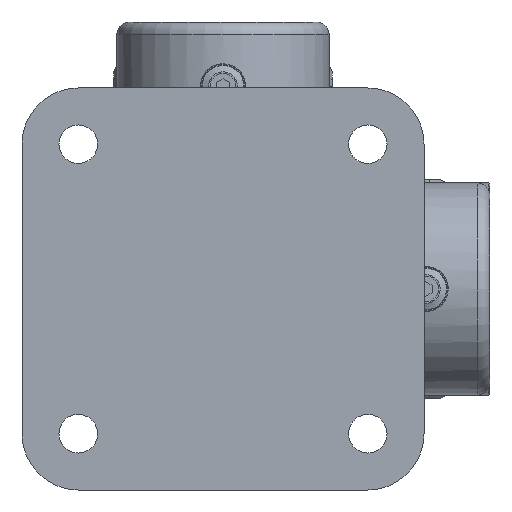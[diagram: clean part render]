
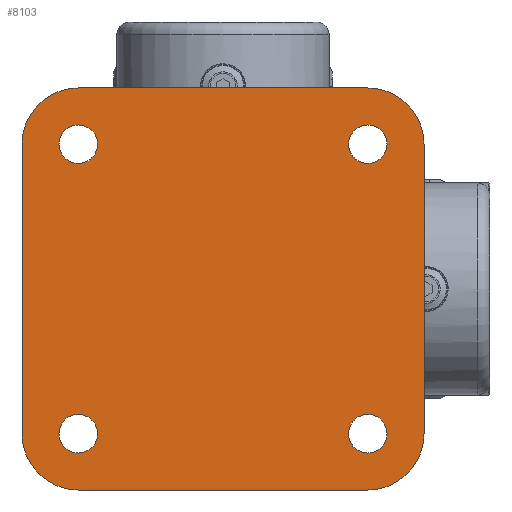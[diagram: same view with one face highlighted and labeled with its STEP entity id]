
A CAD part, front view. The second image highlights one B-rep face of the part: STEP entity #8103.
In plain terms, the highlighted planar face has unit normal (0, -1, 0).
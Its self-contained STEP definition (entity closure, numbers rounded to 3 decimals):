
#652=LINE('',#13463,#1341);
#653=LINE('',#13465,#1342);
#654=LINE('',#13467,#1343);
#655=LINE('',#13469,#1344);
#1341=VECTOR('',#10039,1000.);
#1342=VECTOR('',#10042,1000.);
#1343=VECTOR('',#10045,1000.);
#1344=VECTOR('',#10048,1000.);
#2015=FACE_BOUND('',#2615,.T.);
#2016=FACE_BOUND('',#2616,.T.);
#2017=FACE_BOUND('',#2617,.T.);
#2018=FACE_BOUND('',#2618,.T.);
#2129=FACE_OUTER_BOUND('',#2614,.T.);
#2614=EDGE_LOOP('',(#5743,#5744,#5745,#5746,#5747,#5748,#5749,#5750));
#2615=EDGE_LOOP('',(#5751));
#2616=EDGE_LOOP('',(#5752));
#2617=EDGE_LOOP('',(#5753));
#2618=EDGE_LOOP('',(#5754));
#3132=CIRCLE('',#8981,6.);
#3134=CIRCLE('',#8984,6.);
#3136=CIRCLE('',#8987,6.);
#3138=CIRCLE('',#8990,6.);
#3148=CIRCLE('',#9006,17.5);
#3150=CIRCLE('',#9009,17.5);
#3152=CIRCLE('',#9012,17.5);
#3154=CIRCLE('',#9015,17.5);
#3432=VERTEX_POINT('',#12546);
#3434=VERTEX_POINT('',#12552);
#3436=VERTEX_POINT('',#12558);
#3438=VERTEX_POINT('',#12564);
#3458=VERTEX_POINT('',#12613);
#3459=VERTEX_POINT('',#12614);
#3460=VERTEX_POINT('',#12620);
#3461=VERTEX_POINT('',#12621);
#3462=VERTEX_POINT('',#12627);
#3463=VERTEX_POINT('',#12628);
#3464=VERTEX_POINT('',#12634);
#3465=VERTEX_POINT('',#12635);
#4254=EDGE_CURVE('',#3432,#3432,#3132,.T.);
#4257=EDGE_CURVE('',#3434,#3434,#3134,.T.);
#4260=EDGE_CURVE('',#3436,#3436,#3136,.T.);
#4263=EDGE_CURVE('',#3438,#3438,#3138,.T.);
#4286=EDGE_CURVE('',#3458,#3459,#3148,.T.);
#4290=EDGE_CURVE('',#3460,#3461,#3150,.T.);
#4294=EDGE_CURVE('',#3462,#3463,#3152,.T.);
#4298=EDGE_CURVE('',#3464,#3465,#3154,.T.);
#4443=EDGE_CURVE('',#3465,#3458,#652,.T.);
#4444=EDGE_CURVE('',#3463,#3464,#653,.T.);
#4445=EDGE_CURVE('',#3461,#3462,#654,.T.);
#4446=EDGE_CURVE('',#3459,#3460,#655,.T.);
#5743=ORIENTED_EDGE('',*,*,#4290,.F.);
#5744=ORIENTED_EDGE('',*,*,#4446,.F.);
#5745=ORIENTED_EDGE('',*,*,#4286,.F.);
#5746=ORIENTED_EDGE('',*,*,#4443,.F.);
#5747=ORIENTED_EDGE('',*,*,#4298,.F.);
#5748=ORIENTED_EDGE('',*,*,#4444,.F.);
#5749=ORIENTED_EDGE('',*,*,#4294,.F.);
#5750=ORIENTED_EDGE('',*,*,#4445,.F.);
#5751=ORIENTED_EDGE('',*,*,#4254,.T.);
#5752=ORIENTED_EDGE('',*,*,#4257,.T.);
#5753=ORIENTED_EDGE('',*,*,#4260,.T.);
#5754=ORIENTED_EDGE('',*,*,#4263,.T.);
#7821=PLANE('',#9050);
#8103=ADVANCED_FACE('',(#2129,#2015,#2016,#2017,#2018),#7821,.F.);
#8981=AXIS2_PLACEMENT_3D('',#12547,#9806,#9807);
#8984=AXIS2_PLACEMENT_3D('',#12553,#9813,#9814);
#8987=AXIS2_PLACEMENT_3D('',#12559,#9820,#9821);
#8990=AXIS2_PLACEMENT_3D('',#12565,#9827,#9828);
#9006=AXIS2_PLACEMENT_3D('',#12615,#9872,#9873);
#9009=AXIS2_PLACEMENT_3D('',#12622,#9880,#9881);
#9012=AXIS2_PLACEMENT_3D('',#12629,#9888,#9889);
#9015=AXIS2_PLACEMENT_3D('',#12636,#9896,#9897);
#9050=AXIS2_PLACEMENT_3D('',#13470,#10049,#10050);
#9806=DIRECTION('center_axis',(0.,1.,0.));
#9807=DIRECTION('ref_axis',(-1.,0.,0.));
#9813=DIRECTION('center_axis',(0.,1.,0.));
#9814=DIRECTION('ref_axis',(-1.,0.,0.));
#9820=DIRECTION('center_axis',(0.,1.,0.));
#9821=DIRECTION('ref_axis',(-1.,0.,0.));
#9827=DIRECTION('center_axis',(0.,1.,0.));
#9828=DIRECTION('ref_axis',(-1.,0.,0.));
#9872=DIRECTION('center_axis',(0.,1.,0.));
#9873=DIRECTION('ref_axis',(-0.707,0.,-0.707));
#9880=DIRECTION('center_axis',(0.,1.,0.));
#9881=DIRECTION('ref_axis',(-0.707,0.,0.707));
#9888=DIRECTION('center_axis',(0.,1.,0.));
#9889=DIRECTION('ref_axis',(0.707,0.,0.707));
#9896=DIRECTION('center_axis',(0.,1.,0.));
#9897=DIRECTION('ref_axis',(0.707,0.,-0.707));
#10039=DIRECTION('',(-1.,0.,0.));
#10042=DIRECTION('',(0.,0.,-1.));
#10045=DIRECTION('',(1.,0.,0.));
#10048=DIRECTION('',(0.,0.,1.));
#10049=DIRECTION('center_axis',(0.,1.,0.));
#10050=DIRECTION('ref_axis',(1.,0.,0.));
#12546=CARTESIAN_POINT('',(51.,0.,45.));
#12547=CARTESIAN_POINT('Origin',(45.,0.,45.));
#12552=CARTESIAN_POINT('',(51.,0.,-45.));
#12553=CARTESIAN_POINT('Origin',(45.,0.,-45.));
#12558=CARTESIAN_POINT('',(-39.,0.,-45.));
#12559=CARTESIAN_POINT('Origin',(-45.,0.,-45.));
#12564=CARTESIAN_POINT('',(-39.,0.,45.));
#12565=CARTESIAN_POINT('Origin',(-45.,0.,45.));
#12613=CARTESIAN_POINT('',(-45.,0.,-62.5));
#12614=CARTESIAN_POINT('',(-62.5,0.,-45.));
#12615=CARTESIAN_POINT('Origin',(-45.,0.,-45.));
#12620=CARTESIAN_POINT('',(-62.5,0.,45.));
#12621=CARTESIAN_POINT('',(-45.,0.,62.5));
#12622=CARTESIAN_POINT('Origin',(-45.,0.,45.));
#12627=CARTESIAN_POINT('',(45.,0.,62.5));
#12628=CARTESIAN_POINT('',(62.5,0.,45.));
#12629=CARTESIAN_POINT('Origin',(45.,0.,45.));
#12634=CARTESIAN_POINT('',(62.5,0.,-45.));
#12635=CARTESIAN_POINT('',(45.,0.,-62.5));
#12636=CARTESIAN_POINT('Origin',(45.,0.,-45.));
#13463=CARTESIAN_POINT('',(62.5,0.,-62.5));
#13465=CARTESIAN_POINT('',(62.5,0.,62.5));
#13467=CARTESIAN_POINT('',(-62.5,0.,62.5));
#13469=CARTESIAN_POINT('',(-62.5,0.,-62.5));
#13470=CARTESIAN_POINT('Origin',(0.,0.,0.));
